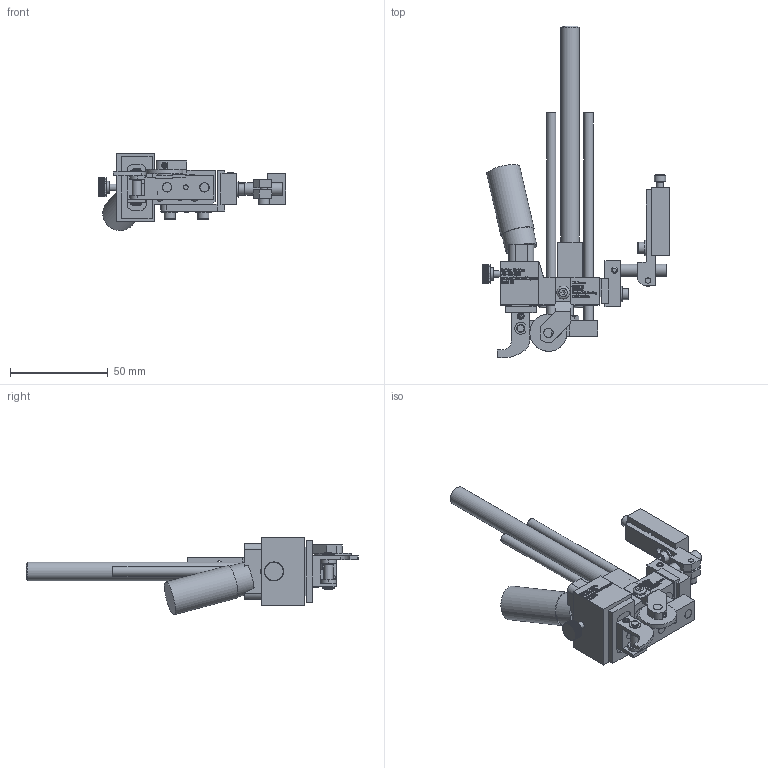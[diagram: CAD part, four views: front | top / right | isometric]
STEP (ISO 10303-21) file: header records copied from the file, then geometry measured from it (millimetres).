
FILE_DESCRIPTION((''),'2;1');
FILE_NAME('C:\Documents and Settings\Ron\My Documents\Inventor\Sprinter Drawing\Machines in Inventor\Model 28\Type\Ext Str\E2\Brkt\Ret\Model 28 E2 Type Ret w brkt.stp','2009-01-22T13:50:34',('Ron'),(''),'Autodesk Inventor 2008','Autodesk Inventor 2008','');
FILE_SCHEMA(('AUTOMOTIVE_DESIGN { 1 0 10303 214 1 1 1 1 }'));
Length unit declared in the file: inch
Products named in the file (1): Model 28 E2 Type Ret w brkt
Bounding box: 95.97 x 170.02 x 39.63 mm (x, y, z)
Volume: 72652.5 mm3; surface area: 40080.2 mm2
Topology: 34 solids, 34 shells, 4163 faces, 11328 edges, 7520 vertices
Faces by surface type: plane 2436, bspline 1348, cylinder 315, cone 50, torus 14
Full cylindrical faces by diameter (mm): 2.337 x1, 2.845 x3, 2.946 x2, 3.048 x1, 3.175 x3, 3.454 x1, 3.505 x7, 3.658 x1, 3.876 x1, 3.962 x9, 3.988 x1, 4.064 x1, 4.166 x2, 4.648 x2, 4.699 x1, 4.75 x1, 4.763 x2, 4.775 x2, 4.788 x1, 5.41 x2, 5.74 x6, 6.096 x1, 6.325 x2, 6.35 x2, 6.655 x1, 7.239 x1, 7.925 x4, 7.938 x1, 8.128 x1, 9.525 x1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
Entity records: 143818 total; most frequent: CARTESIAN_POINT 46225, ORIENTED_EDGE 22152, DIRECTION 14915, EDGE_CURVE 11076, VECTOR 7509, LINE 7509, VERTEX_POINT 7440, EDGE_LOOP 4690
